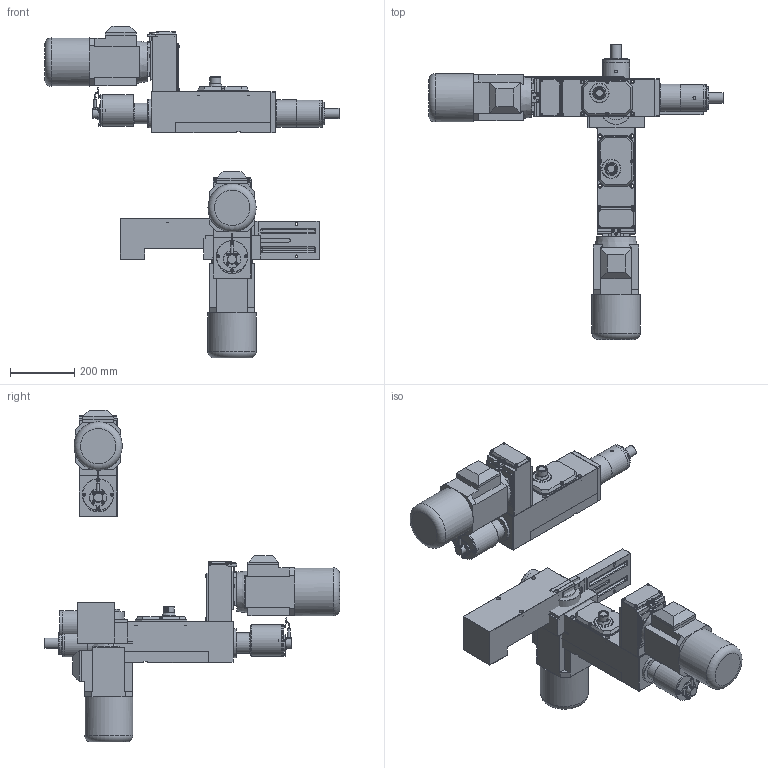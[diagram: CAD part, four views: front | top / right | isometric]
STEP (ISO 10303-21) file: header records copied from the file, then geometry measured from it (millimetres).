
FILE_DESCRIPTION( ( 'STEP AP203' ), '1' );
FILE_NAME( 'C:/Documents and Settings/Saverio/Desktop/disegni ironcad/unità serie 1/MC 112/MC 112_A04_P.stp', '2014-01-13T17:22:01', ( ' ' ), ( ' ' ), 'XStep 1.0', ' ', ' ' );
FILE_SCHEMA( ( 'CONFIG_CONTROL_DESIGN' ) );
Length unit declared in the file: metre
Products named in the file (52): Assem1; Assem2; Assem3; 1; 2; 3; 4; 5; 6; 7; 8; 9; 10; 11; 12; 13; 14; 15; 16; 17; 18; 19; 20; 21; 22; 23; 24; 25; 26; 27; 28; 29; 30; 31; 32; 33; 34; 35; 36; 37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
Bounding box: 916.2 x 918 x 1032.13 mm (x, y, z)
Volume: 40093905.4 mm3; surface area: 3314116.6 mm2
Topology: 147 solids, 147 shells, 3078 faces, 6954 edges, 4332 vertices
Faces by surface type: plane 1887, cylinder 687, cone 393, sphere 60, bspline 30, torus 21
Full cylindrical faces by diameter (mm): 4.134 x3, 4.5 x12, 5 x39, 5.5 x15, 6 x21, 6.5 x18, 6.75 x12, 6.9 x12, 7 x3, 8 x3, 8.385 x15, 8.5 x27, 9.87 x24, 13.5 x12, 16 x3, 18 x3, 23 x3, 30 x3, 32 x12, 41 x3, 52 x3, 52.5 x3, 54 x9, 54.4 x3, 60 x3, 64 x3, 70 x6, 80 x9, 84 x3, 85 x3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
Entity records: 31327 total; most frequent: CARTESIAN_POINT 7028, DIRECTION 4564, ORIENTED_EDGE 4134, EDGE_CURVE 2067, AXIS2_PLACEMENT_3D 1647, VERTEX_POINT 1414, EDGE_LOOP 1379, LINE 1270
